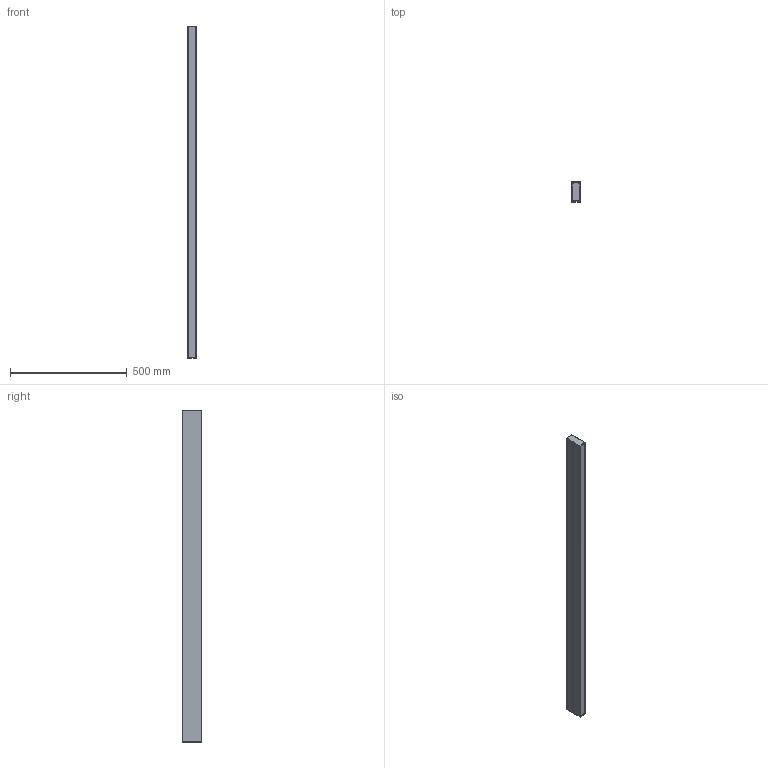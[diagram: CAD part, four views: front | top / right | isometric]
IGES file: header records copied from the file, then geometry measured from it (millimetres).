
Start section: SolidWorks IGES file using analytic representation for surfaces
Global section: file name: C:\Users\JoãoSantos\Desktop\02_3D.2D\01_2020\02_Linear\04_U35\03_Trimless\U35_TRIMLESS_1422.IGS; native system: SolidWorks 2020; preprocessor: SolidWorks 2020; author: JoãoSantos; date: 201022.125437; units: millimetre
Bounding box: 35 x 85 x 1421 mm (x, y, z)
Surface area: 761927 mm2 (no closed solid volume)
Topology: 0 solids, 0 shells, 123 faces, 1040 edges, 1040 vertices
Faces by surface type: bspline 66, revolution 57
